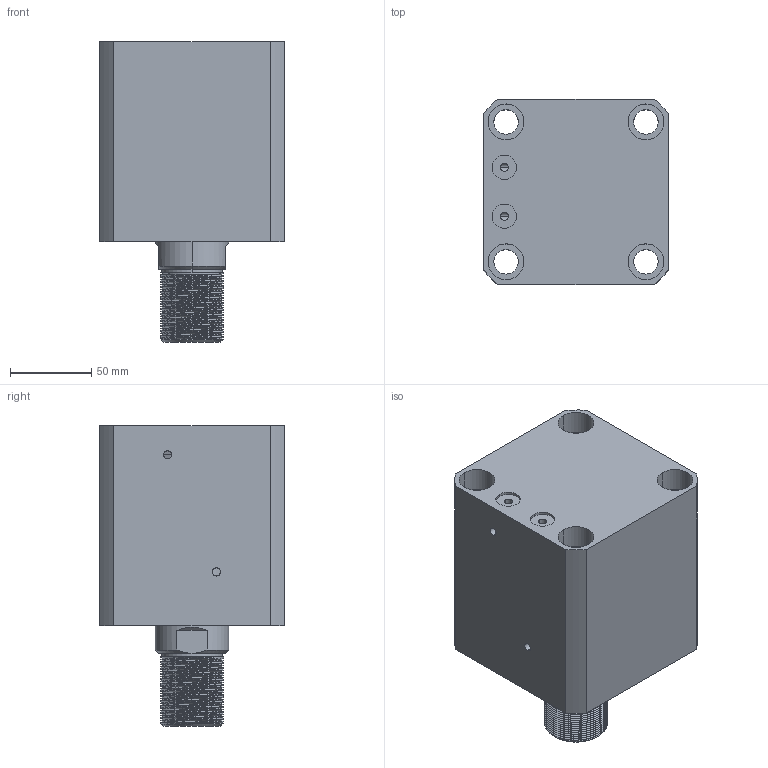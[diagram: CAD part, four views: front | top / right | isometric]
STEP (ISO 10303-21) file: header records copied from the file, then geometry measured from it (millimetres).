
FILE_DESCRIPTION (( 'STEP AP214' ), '1' );
FILE_NAME ('chtb-sdmb80x45w_asm.STEP', '2018-05-26T01:51:56', ( 'Windows' ), ( 'Microsoft' ), 'SwSTEP 2.0', 'SolidWorks 2015', '' );
FILE_SCHEMA (( 'AUTOMOTIVE_DESIGN' ));
Length unit declared in the file: millimetre
Products named in the file (4): CHTB-SDMB80X45NBT; CHTB-SD80X45WHSG; CHTB-SD80QG; chtb-sdmb80x45w_asm
Assembly tree (3 placements, depth 2):
  chtb-sdmb80x45w_asm
    CHTB-SD80QG
    CHTB-SD80X45WHSG
    CHTB-SDMB80X45NBT
Bounding box: 114 x 114 x 185 mm (x, y, z)
Volume: 1371739.3 mm3; surface area: 202786.3 mm2
Topology: 3 solids, 3 shells, 251 faces, 695 edges, 466 vertices
Faces by surface type: cylinder 163, plane 38, torus 18, bspline 16, cone 16
Entity records: 20297 total; most frequent: CARTESIAN_POINT 14321, ORIENTED_EDGE 1382, DIRECTION 1068, EDGE_CURVE 691, VERTEX_POINT 466, AXIS2_PLACEMENT_3D 433, EDGE_LOOP 289, FACE_OUTER_BOUND 251
